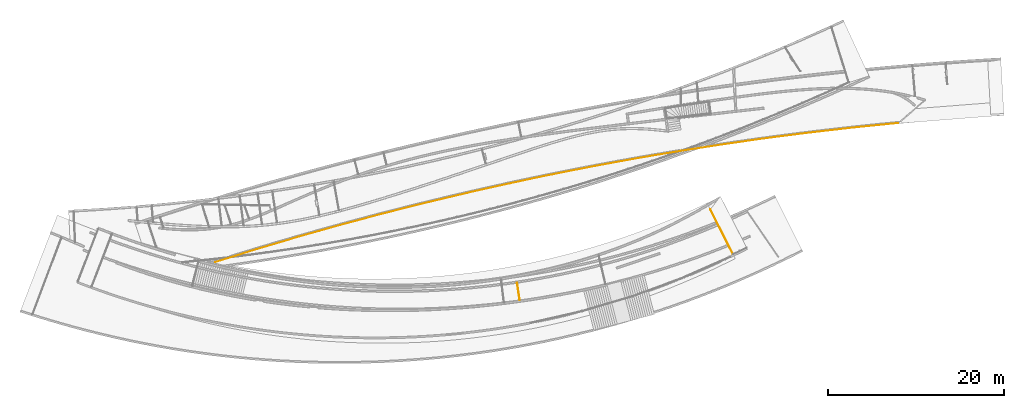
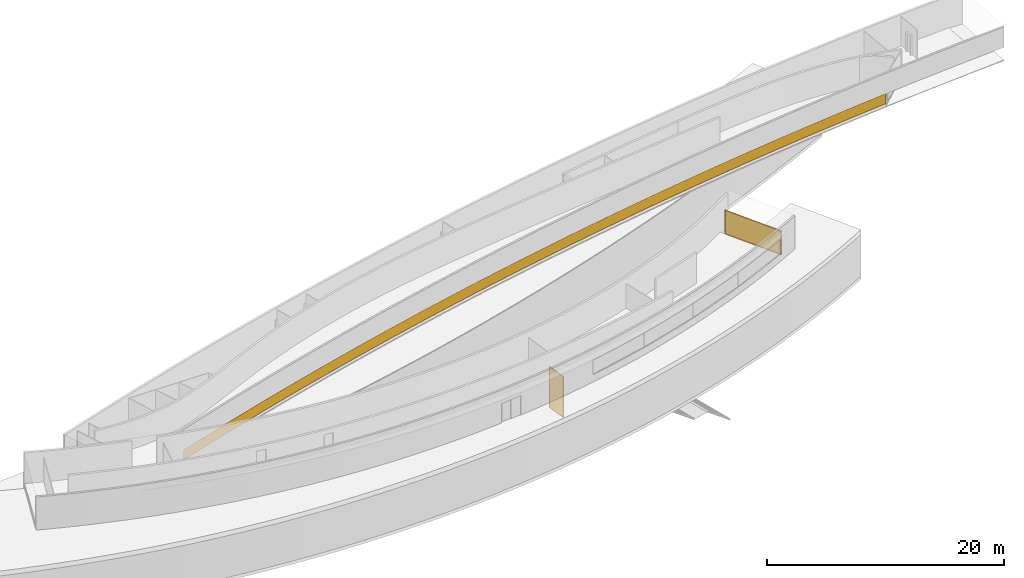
# Not in any storey, part 13 of 14: 2 curtain walls, 1 window.
"""IFC2X3 model written with IfcOpenShell, lengths in millimetres."""

from ifc_helpers import new_model, entity, si_unit, converted_unit, direction, frame, origin_with_axes, place, context, project, spatial, open_shell, faceted_brep, surface_model, source, transform, mapped, type_object, type_shapes, element, save


model = new_model("IFC2X3")

# Units and contexts
model_context = context("Model", 3, precision=1.0, world=origin_with_axes(), true_north=direction((0.0, 1.0)))
ifc_project = project(units=[si_unit("LENGTHUNIT", "METRE", prefix="MILLI"), converted_unit("PLANEANGLEUNIT", "DEGREE", entity("IfcRatioMeasure", 0.017453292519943), si_unit("PLANEANGLEUNIT", "RADIAN"), dimensions=[0, 0, 0, 0, 0, 0, 0])], contexts=[model_context])

# Site
site_placement = place(None, origin_with_axes())
site = spatial("IfcSite", under=ifc_project, at=site_placement, Name="Site", CompositionType="ELEMENT")

# Window
window_style = type_object("IfcWindowStyle", Name="Style", ConstructionType="NOTDEFINED", OperationType="SINGLE_PANEL", ParameterTakesPrecedence=False, Sizeable=False)
shared_shape_1 = source(origin_with_axes(), model_context, "Body", "SurfaceModel", [
    surface_model("IfcShellBasedSurfaceModel", [(-33027.0390625, 2413.43090820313, 9850.0), (-33027.0390625, 2413.43090820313, 10900.0), (-28144.265625, 3305.76293945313, 10900.0), (-28144.265625, 3305.76293945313, 9850.0), (-42746.8515625, 434.303741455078, 10900.0), (-37895.0, 1456.1923828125, 10900.0), (-37895.0, 1456.1923828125, 9850.0), (-42746.8515625, 434.303741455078, 9850.0), (-71447.9140625, -7036.01611328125, 9850.0), (-71447.9140625, -7036.01611328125, 10900.0), (-66719.515625, -5633.52099609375, 10900.0), (-66719.515625, -5633.52099609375, 9850.0), (-35461.01953125, 1934.81164550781, 10900.0), (-33027.0390625, 2413.43090820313, 10900.0), (-33027.0390625, 2413.43090820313, 9850.0), (-35461.01953125, 1934.81164550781, 9850.0), (-37895.0, 1456.1923828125, 9850.0), (-37895.0, 1456.1923828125, 10900.0), (-13420.224609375, 5591.27978515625, 9850.0), (-13420.224609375, 5591.27978515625, 10900.0), (-8491.3740234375, 6222.12109375, 10900.0), (-8491.3740234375, 6222.12109375, 9850.0), (-1082.35363769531, 7037.033203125, 10900.0), (1389.61145019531, 7286.76708984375, 10900.0), (1389.61145019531, 7286.76708984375, 9850.0), (-1082.35363769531, 7037.033203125, 9850.0), (-3554.31860351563, 6787.298828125, 9850.0), (-3554.31860351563, 6787.298828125, 10900.0), (-8491.3740234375, 6222.12109375, 10900.0), (-3554.31860351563, 6787.298828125, 10900.0), (-3554.31860351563, 6787.298828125, 9850.0), (-8491.3740234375, 6222.12109375, 9850.0), (-18339.5390625, 4894.8564453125, 9850.0), (-18339.5390625, 4894.8564453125, 10900.0), (-13420.224609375, 5591.27978515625, 10900.0), (-13420.224609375, 5591.27978515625, 9850.0), (-47581.296875, -651.944274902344, 10900.0), (-42746.8515625, 434.303741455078, 10900.0), (-42746.8515625, 434.303741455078, 9850.0), (-47581.296875, -651.944274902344, 9850.0), (-76151.3984375, -8500.4189453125, 9850.0), (-76151.3984375, -8500.4189453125, 10900.0), (-73799.65625, -7768.21728515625, 10900.0), (-71447.9140625, -7036.01611328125, 10900.0), (-71447.9140625, -7036.01611328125, 9850.0), (-73799.65625, -7768.21728515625, 9850.0), (-52397.05078125, -1802.2265625, 9850.0), (-52397.05078125, -1802.2265625, 10900.0), (-47581.296875, -651.944274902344, 10900.0), (-47581.296875, -651.944274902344, 9850.0), (-57192.84375, -3016.18408203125, 9850.0), (-57192.84375, -3016.18408203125, 10900.0), (-52397.05078125, -1802.2265625, 10900.0), (-52397.05078125, -1802.2265625, 9850.0), (-23247.994140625, 4132.966796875, 10900.0), (-18339.5390625, 4894.8564453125, 10900.0), (-18339.5390625, 4894.8564453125, 9850.0), (-23247.994140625, 4132.966796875, 9850.0), (-66719.515625, -5633.52099609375, 9850.0), (-66719.515625, -5633.52099609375, 10900.0), (-64343.46484375, -4963.47265625, 10900.0), (-61967.4140625, -4293.42431640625, 10900.0), (-61967.4140625, -4293.42431640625, 9850.0), (-64343.46484375, -4963.47265625, 9850.0), (-28144.265625, 3305.76293945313, 9850.0), (-28144.265625, 3305.76293945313, 10900.0), (-25696.130859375, 3719.36499023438, 10900.0), (-23247.994140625, 4132.966796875, 10900.0), (-23247.994140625, 4132.966796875, 9850.0), (-25696.130859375, 3719.36499023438, 9850.0), (-61967.4140625, -4293.42431640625, 10900.0), (-57192.84375, -3016.18408203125, 10900.0), (-57192.84375, -3016.18408203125, 9850.0), (-61967.4140625, -4293.42431640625, 9850.0)], [open_shell([[[0, 1, 2, 3]], [[4, 5, 6, 7]], [[8, 9, 10, 11]], [[12, 13, 14, 15, 16, 17]], [[18, 19, 20, 21]], [[22, 23, 24, 25, 26, 27]], [[28, 29, 30, 31]], [[32, 33, 34, 35]], [[36, 37, 38, 39]], [[40, 41, 42, 43, 44, 45]], [[46, 47, 48, 49]], [[50, 51, 52, 53]], [[54, 55, 56, 57]], [[58, 59, 60, 61, 62, 63]], [[64, 65, 66, 67, 68, 69]], [[70, 71, 72, 73]]])]),
])
type_shapes(window_style, [shared_shape_1])
shared_shape_2 = source(origin_with_axes(), None, "Body", "MappedRepresentation", [mapped(shared_shape_1, transform((0.0, 0.0, 0.0)))])
window_placement = place(site_placement, frame((38770.5055402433, 0.0, 0.0), z_axis=(0.0, 0.0, 1.0), x_axis=(1.0, 0.0, 0.0)))
element("IfcWindow", 1, at=window_placement, inside=site, type_object=window_style, ObjectType="Style", OverallHeight=1050.0, OverallWidth=77541.0110804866, context=model_context, shape_type="MappedRepresentation", body=[
    mapped(shared_shape_2, transform((0.0, 0.0, 0.0))),
])

# Curtain walls
shared_shape_3 = source(origin_with_axes(), model_context, "Body", "SurfaceModel", [
    surface_model("IfcShellBasedSurfaceModel", [(21419.4180329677, -7580.1728708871, 9850.00000000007), (21397.12890625, -7591.494140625, 9850.0), (21374.8379435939, -7602.81499240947, 9849.99999999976), (20081.2539119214, -5055.91601274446, 9849.99999999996), (18787.6698814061, -2509.01688196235, 9850.00000000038), (18809.958967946, -2497.69576843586, 9849.99999999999), (18832.2480537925, -2486.37452533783, 9850.0), (20125.833984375, -5033.27392578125, 9850.0), (21419.4180076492, -7580.17290106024, 9899.99999999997), (21374.8379482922, -7602.81505494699, 9899.99999999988), (21374.8379954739, -7602.81514784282, 9875.00000000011), (21374.8379849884, -7602.81512719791, 9849.99999999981), (21419.4180329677, -7580.1728708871, 9850.00000000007), (21419.4180329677, -7580.1728708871, 9850.00000000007), (18832.2483689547, -2486.37434813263, 9849.9999999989), (18832.2481253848, -2486.37448040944, 9900.00000000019), (18854.8905999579, -2530.95411428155, 9899.99999999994), (21419.4180076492, -7580.17290106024, 9899.99999999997), (18787.6699865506, -2509.01682570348, 9899.99999999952), (18787.6698814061, -2509.01688196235, 9850.00000000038), (20081.2539119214, -5055.91601274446, 9849.99999999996), (21374.8379435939, -7602.81499240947, 9849.99999999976), (21374.8382740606, -7602.81474665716, 9900.00000000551), (18810.3123977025, -2553.59624336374, 9900.00000000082), (18787.6698814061, -2509.01688196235, 9850.00000000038), (18787.6699865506, -2509.01682570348, 9899.99999999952), (18809.9589662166, -2497.69576503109, 9899.99999999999), (18832.2481253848, -2486.37448040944, 9900.00000000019), (18832.2480589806, -2486.37453555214, 9875.0), (18832.2480537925, -2486.37452533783, 9850.0), (18809.958967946, -2497.69576843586, 9849.99999999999), (18854.8905999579, -2530.95411428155, 9899.99999999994), (18832.2481253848, -2486.37448040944, 9900.00000000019), (18809.9589662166, -2497.69576503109, 9899.99999999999), (18787.6699865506, -2509.01682570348, 9899.99999999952), (18810.3123977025, -2553.59624336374, 9900.00000000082), (20081.25390625, -5055.916015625, 9900.0), (21352.197265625, -7558.23583984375, 9900.0), (21374.8379482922, -7602.81505494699, 9899.99999999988), (21397.12890625, -7591.494140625, 9900.0), (21419.4180076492, -7580.17290106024, 9899.99999999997), (21396.775390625, -7535.59326171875, 9900.0), (20125.833984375, -5033.27392578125, 9900.0)], [open_shell([[[0, 1, 2, 3, 4, 5, 6, 7]], [[8, 9, 10, 11, 12]], [[13, 14, 15, 16, 17]], [[18, 19, 20, 21, 22, 23]], [[24, 25, 26, 27, 28, 29, 30]], [[31, 32, 33, 34, 35, 36, 37, 38, 39, 40, 41, 42]]])]),
    surface_model("IfcShellBasedSurfaceModel", [(21396.7755431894, -7535.59318423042, 12299.9999999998), (21419.4180171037, -7580.17292222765, 12300.0000000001), (21397.12890625, -7591.494140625, 12300.0), (21374.8381787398, -7602.81479507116, 12300.0000000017), (21352.197265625, -7558.23583984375, 12300.0), (20081.254042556, -5055.91594639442, 12300.0000000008), (18810.31238741, -2553.59624859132, 12299.9999999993), (18787.6699781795, -2509.01682567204, 12300.0000000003), (18809.9589662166, -2497.69576503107, 12300.0), (18832.2481325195, -2486.37448106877, 12299.9999999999), (18854.8906079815, -2530.9541102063, 12300.0), (20125.833984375, -5033.27392578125, 12300.0), (18832.2481325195, -2486.37448106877, 12299.9999999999), (18832.2481537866, -2486.37447312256, 12349.9999999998), (21419.418030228, -7580.17289824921, 12350.0), (21419.4180171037, -7580.17292222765, 12300.0000000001), (21396.7755431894, -7535.59318423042, 12299.9999999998), (18854.8906079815, -2530.9541102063, 12300.0), (21374.8379277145, -7602.81497450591, 12350.0000000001), (21397.12890625, -7591.494140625, 12350.0), (21419.418030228, -7580.17289824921, 12350.0), (20125.833984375, -5033.27392578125, 12350.0), (18832.2481537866, -2486.37447312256, 12349.9999999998), (18809.958967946, -2497.69576843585, 12350.0), (18787.6698994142, -2509.01686853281, 12349.9999999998), (20081.2539226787, -5055.91600728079, 12350.0000000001), (21419.4180171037, -7580.17292222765, 12300.0000000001), (21419.418030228, -7580.17289824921, 12350.0), (21397.1280083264, -7591.49405131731, 12350.0000000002), (21374.8379535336, -7602.81506526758, 12350.0000000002), (21374.8379640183, -7602.81508591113, 12324.9999999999), (21374.8379325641, -7602.81502398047, 12300.0000000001), (21397.1280292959, -7591.49409260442, 12299.9999999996), (18787.6698994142, -2509.01686853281, 12349.9999999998), (18787.6699781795, -2509.01682567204, 12300.0000000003), (18810.31238741, -2553.59624859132, 12299.9999999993), (20081.254042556, -5055.91594639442, 12300.0000000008), (21374.8381787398, -7602.81479507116, 12299.9999999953), (21374.8379277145, -7602.81497450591, 12350.0000000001), (20081.2539226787, -5055.91600728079, 12350.0000000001), (18832.2481537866, -2486.37447312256, 12349.9999999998), (18832.2481325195, -2486.37448106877, 12299.9999999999), (18809.9589662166, -2497.69576503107, 12300.0), (18787.6699781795, -2509.01682567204, 12300.0000000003), (18787.6698994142, -2509.01686853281, 12349.9999999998), (18809.958967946, -2497.69576843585, 12350.0)], [open_shell([[[0, 1, 2, 3, 4, 5, 6, 7, 8, 9, 10, 11]], [[12, 13, 14, 15, 16, 17]], [[18, 19, 20, 21, 22, 23, 24, 25]], [[26, 27, 28, 29, 30, 31, 32]], [[33, 34, 35, 36, 37, 38, 39]], [[40, 41, 42, 43, 44, 45]]])]),
])
shared_shape_4 = source(origin_with_axes(), model_context, "Body", "Brep", [
    faceted_brep([(18787.669921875, -2509.01684570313, 9900.0), (18832.248046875, -2486.37451171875, 9900.0), (18854.890625, -2530.9541015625, 9900.0), (18810.3125, -2553.59619140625, 9900.0), (18854.890625, -2530.9541015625, 9900.0), (18832.248046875, -2486.37451171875, 9900.0), (18832.248046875, -2486.37451171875, 11100.0), (18832.248046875, -2486.37451171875, 12300.0), (18854.890625, -2530.9541015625, 12300.0), (18854.890625, -2530.9541015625, 11100.0), (18832.248046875, -2486.37451171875, 12300.0), (18787.669921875, -2509.01684570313, 12300.0), (18810.3125, -2553.59619140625, 12300.0), (18854.890625, -2530.9541015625, 12300.0), (18854.890625, -2530.9541015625, 12300.0), (18810.3125, -2553.59619140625, 12300.0), (18810.3125, -2553.59619140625, 11100.0), (18810.3125, -2553.59619140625, 9900.0), (18854.890625, -2530.9541015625, 9900.0), (18854.890625, -2530.9541015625, 11100.0), (18787.669921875, -2509.01684570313, 9900.0), (18810.3125, -2553.59619140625, 9900.0), (18810.3125, -2553.59619140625, 11100.0), (18810.3125, -2553.59619140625, 12300.0), (18787.669921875, -2509.01684570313, 12300.0), (18787.669921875, -2509.01684570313, 11100.0), (18787.669921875, -2509.01684570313, 12300.0), (18832.248046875, -2486.37451171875, 12300.0), (18832.248046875, -2486.37451171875, 11100.0), (18832.248046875, -2486.37451171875, 9900.0), (18787.669921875, -2509.01684570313, 9900.0), (18787.669921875, -2509.01684570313, 11100.0)], [[[0, 1, 2, 3]], [[4, 5, 6, 7, 8, 9]], [[10, 11, 12, 13]], [[14, 15, 16, 17, 18, 19]], [[20, 21, 22, 23, 24, 25]], [[26, 27, 28, 29, 30, 31]]]),
    faceted_brep([(21419.41796875, -7580.1728515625, 12300.0), (21374.837890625, -7602.81494140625, 12300.0), (21374.837890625, -7602.81494140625, 11100.0), (21374.837890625, -7602.81494140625, 9900.0), (21419.41796875, -7580.1728515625, 9900.0), (21419.41796875, -7580.1728515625, 11100.0), (21352.197265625, -7558.23583984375, 9900.0), (21374.837890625, -7602.81494140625, 9900.0), (21374.837890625, -7602.81494140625, 11100.0), (21374.837890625, -7602.81494140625, 12300.0), (21352.197265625, -7558.23583984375, 12300.0), (21352.197265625, -7558.23583984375, 11100.0), (21419.41796875, -7580.1728515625, 9900.0), (21396.775390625, -7535.59326171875, 9900.0), (21396.775390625, -7535.59326171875, 11100.0), (21396.775390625, -7535.59326171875, 12300.0), (21419.41796875, -7580.1728515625, 12300.0), (21419.41796875, -7580.1728515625, 11100.0), (21352.197265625, -7558.23583984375, 12300.0), (21396.775390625, -7535.59326171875, 12300.0), (21396.775390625, -7535.59326171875, 11100.0), (21396.775390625, -7535.59326171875, 9900.0), (21352.197265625, -7558.23583984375, 9900.0), (21352.197265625, -7558.23583984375, 11100.0), (21352.197265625, -7558.23583984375, 9900.0), (21396.775390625, -7535.59326171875, 9900.0), (21419.41796875, -7580.1728515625, 9900.0), (21374.837890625, -7602.81494140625, 9900.0), (21396.775390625, -7535.59326171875, 12300.0), (21352.197265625, -7558.23583984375, 12300.0), (21374.837890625, -7602.81494140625, 12300.0), (21419.41796875, -7580.1728515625, 12300.0)], [[[0, 1, 2, 3, 4, 5]], [[6, 7, 8, 9, 10, 11]], [[12, 13, 14, 15, 16, 17]], [[18, 19, 20, 21, 22, 23]], [[24, 25, 26, 27]], [[28, 29, 30, 31]]]),
])
shared_shape_5 = source(origin_with_axes(), model_context, "Body", "MappedRepresentation", [
    mapped(shared_shape_3, transform((0.0, 0.0, 0.0), x_axis=(1.0, 0.0, 0.0), y_axis=(0.0, 1.0, 0.0), z_axis=(0.0, 0.0, 1.0), scale=1.0)),
    mapped(shared_shape_4, transform((0.0, 0.0, 0.0), x_axis=(1.0, 0.0, 0.0), y_axis=(0.0, 1.0, 0.0), z_axis=(0.0, 0.0, 1.0), scale=1.0)),
])
shared_shape_6 = source(origin_with_axes(), model_context, "Body", "SurfaceModel", [
    surface_model("IfcShellBasedSurfaceModel", [(5613.16259765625, 2.17e-13, 0.0), (5613.16259765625, -2.04e-13, 2400.0), (0.0, -1.45e-13, 2400.0), (0.0, 2.76e-13, 0.0)], [open_shell([[[0, 1, 2, 3]]])]),
])
shared_shape_7 = source(origin_with_axes(), model_context, "Body", "MappedRepresentation", [
    mapped(shared_shape_5, transform((0.0, 0.0, 0.0), x_axis=(1.0, 0.0, 0.0), y_axis=(0.0, 1.0, 0.0), z_axis=(0.0, 0.0, 1.0), scale=1.0)),
    mapped(shared_shape_6, transform((21374.4863180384, -7546.91457624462, 9900.0), x_axis=(-0.45284364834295, 0.891589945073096, 0.0), y_axis=(-0.891589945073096, -0.45284364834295, 0.0), z_axis=(0.0, 0.0, 1.0), scale=1.0)),
])
curtain_wall_1_placement = place(site_placement, origin_with_axes())
element("IfcCurtainWall", 2, at=curtain_wall_1_placement, inside=site, context=model_context, shape_type="MappedRepresentation", body=[
    mapped(shared_shape_7, transform((0.0, 0.0, 0.0), x_axis=(1.0, 0.0, 0.0), y_axis=(0.0, 1.0, 0.0), z_axis=(0.0, 0.0, 1.0), scale=1.0)),
])
shared_shape_8 = source(origin_with_axes(), model_context, "Body", "SurfaceModel", [
    surface_model("IfcShellBasedSurfaceModel", [(1872.4130859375, 4.8e-14, 0.0), (1872.4130859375, -1.38e-13, 4180.0), (0.0, -3.3e-14, 4180.0), (0.0, 1.54e-13, 0.0)], [open_shell([[[0, 1, 2, 3]]])]),
])
shared_shape_9 = source(origin_with_axes(), model_context, "Body", "Brep", [
    faceted_brep([(-3085.00520629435, -10907.709972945, 4770.00146484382), (-3092.48703695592, -10858.2734339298, 4770.00146484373), (-3141.92409514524, -10865.7548862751, 4770.00146484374), (-3134.44234147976, -10915.1923765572, 4770.00146484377), (-2994.35252461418, -11840.8583962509, 4770.00146484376), (-2854.26270774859, -12766.5244159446, 4770.00146484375), (-2846.78101187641, -12815.9609384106, 4770.00146484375), (-2797.34375757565, -12808.479493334, 4770.00146484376), (-2804.82565247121, -12759.0419874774, 4770.00146484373), (-2944.91549178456, -11833.375971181, 4770.00146484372), (-3092.4870501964, -10858.2734359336, 4720.00146484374), (-3092.48703695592, -10858.2734339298, 4770.00146484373), (-3085.00520629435, -10907.709972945, 4770.00146484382), (-2944.91549178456, -11833.375971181, 4770.00146484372), (-2804.82565247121, -12759.0419874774, 4770.00146484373), (-2797.34375757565, -12808.479493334, 4770.00146484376), (-2797.34377081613, -12808.4794953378, 4720.00146484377), (-2944.91551164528, -11833.3759741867, 4720.00146484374), (-3141.92409514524, -10865.7548862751, 4770.00146484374), (-3141.92408882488, -10865.7548853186, 4720.00146484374), (-2994.35251513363, -11840.8583948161, 4720.00146484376), (-2846.78100555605, -12815.9609374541, 4720.00146484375), (-2846.78101187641, -12815.9609384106, 4770.00146484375), (-2854.26270774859, -12766.5244159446, 4770.00146484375), (-2994.35252461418, -11840.8583962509, 4770.00146484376), (-3134.44234147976, -10915.1923765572, 4770.00146484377), (-3141.92408882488, -10865.7548853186, 4720.00146484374), (-3141.92409514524, -10865.7548862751, 4770.00146484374), (-3092.48703695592, -10858.2734339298, 4770.00146484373), (-3092.4870501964, -10858.2734359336, 4720.00146484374), (-2797.34377081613, -12808.4794953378, 4720.00146484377), (-2797.34375757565, -12808.479493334, 4770.00146484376), (-2846.78101187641, -12815.9609384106, 4770.00146484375), (-2846.78100555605, -12815.9609374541, 4720.00146484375), (-2944.91551164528, -11833.3759741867, 4720.00146484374), (-2797.34377081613, -12808.4794953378, 4720.00146484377), (-2846.78100555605, -12815.9609374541, 4720.00146484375), (-2994.35251513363, -11840.8583948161, 4720.00146484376), (-3141.92408882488, -10865.7548853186, 4720.00146484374), (-3092.4870501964, -10858.2734359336, 4720.00146484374)], [[[0, 1, 2, 3, 4, 5, 6, 7, 8, 9]], [[10, 11, 12, 13, 14, 15, 16, 17]], [[18, 19, 20, 21, 22, 23, 24, 25]], [[26, 27, 28, 29]], [[30, 31, 32, 33]], [[34, 35, 36, 37, 38, 39]]]),
    faceted_brep([(-3134.4423828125, -10915.1923828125, 4770.00146484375), (-3141.92407226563, -10865.7548828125, 4770.00146484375), (-3092.48706054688, -10858.2734375, 4770.00146484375), (-3085.00512695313, -10907.7099609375, 4770.00146484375), (-3085.00512695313, -10907.7099609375, 8950.001953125), (-3134.4423828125, -10915.1923828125, 8950.001953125), (-3134.4423828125, -10915.1923828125, 6860.00146484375), (-3134.4423828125, -10915.1923828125, 4770.00146484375), (-3085.00512695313, -10907.7099609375, 4770.00146484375), (-3085.00512695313, -10907.7099609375, 6860.00146484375), (-3141.92407226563, -10865.7548828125, 8950.001953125), (-3092.48706054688, -10858.2734375, 8950.001953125), (-3092.48706054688, -10858.2734375, 6860.00146484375), (-3092.48706054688, -10858.2734375, 4770.00146484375), (-3141.92407226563, -10865.7548828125, 4770.00146484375), (-3141.92407226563, -10865.7548828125, 6860.00146484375), (-3141.92407226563, -10865.7548828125, 8950.001953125), (-3134.4423828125, -10915.1923828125, 8950.001953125), (-3085.00512695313, -10907.7099609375, 8950.001953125), (-3092.48706054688, -10858.2734375, 8950.001953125), (-3141.92407226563, -10865.7548828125, 4770.00146484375), (-3134.4423828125, -10915.1923828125, 4770.00146484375), (-3134.4423828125, -10915.1923828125, 6860.00146484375), (-3134.4423828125, -10915.1923828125, 8950.001953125), (-3141.92407226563, -10865.7548828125, 8950.001953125), (-3141.92407226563, -10865.7548828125, 6860.00146484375), (-3085.00512695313, -10907.7099609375, 4770.00146484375), (-3092.48706054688, -10858.2734375, 4770.00146484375), (-3092.48706054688, -10858.2734375, 6860.00146484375), (-3092.48706054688, -10858.2734375, 8950.001953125), (-3085.00512695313, -10907.7099609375, 8950.001953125), (-3085.00512695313, -10907.7099609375, 6860.00146484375)], [[[0, 1, 2, 3]], [[4, 5, 6, 7, 8, 9]], [[10, 11, 12, 13, 14, 15]], [[16, 17, 18, 19]], [[20, 21, 22, 23, 24, 25]], [[26, 27, 28, 29, 30, 31]]]),
    faceted_brep([(-3141.92408952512, -10865.7548854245, 9000.00195312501), (-3141.92409507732, -10865.7548862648, 8950.00195312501), (-3134.44234131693, -10915.1923765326, 8950.00195312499), (-2994.35252331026, -11840.8583960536, 8950.001953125), (-2854.26270530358, -12766.5244155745, 8950.001953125), (-2846.78101020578, -12815.9609381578, 8950.001953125), (-2846.78100465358, -12815.9609373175, 9000.001953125), (-2994.35251498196, -11840.8583947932, 9000.00195312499), (-2804.82565299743, -12759.0419875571, 8950.00195312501), (-2797.34375786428, -12808.4794933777, 8950.001953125), (-2846.78101020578, -12815.9609381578, 8950.001953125), (-2854.26270530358, -12766.5244155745, 8950.001953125), (-2994.35252331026, -11840.8583960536, 8950.001953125), (-3134.44234131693, -10915.1923765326, 8950.00195312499), (-3141.92409507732, -10865.7548862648, 8950.00195312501), (-3092.48703969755, -10858.2734343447, 8950.00195312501), (-3085.00521031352, -10907.7099735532, 8950.00195312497), (-2944.91549405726, -11833.3759715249, 8950.00195312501), (-2944.91550429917, -11833.3759730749, 9000.00195312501), (-3092.48704652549, -10858.273435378, 9000.00195312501), (-3141.92408952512, -10865.7548854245, 9000.00195312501), (-2994.35251498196, -11840.8583947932, 9000.00195312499), (-2846.78100465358, -12815.9609373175, 9000.001953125), (-2797.34376469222, -12808.479494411, 9000.00195312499), (-2797.34376469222, -12808.479494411, 9000.00195312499), (-2846.78100465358, -12815.9609373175, 9000.001953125), (-2846.78101020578, -12815.9609381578, 8950.001953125), (-2797.34375786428, -12808.4794933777, 8950.001953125), (-3092.48703969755, -10858.2734343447, 8950.00195312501), (-3092.48704652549, -10858.273435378, 9000.00195312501), (-2944.91550429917, -11833.3759730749, 9000.00195312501), (-2797.34376469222, -12808.479494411, 9000.00195312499), (-2797.34375786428, -12808.4794933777, 8950.001953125), (-2804.82565299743, -12759.0419875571, 8950.00195312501), (-2944.91549405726, -11833.3759715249, 8950.00195312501), (-3085.00521031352, -10907.7099735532, 8950.00195312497), (-3141.92409507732, -10865.7548862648, 8950.00195312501), (-3141.92408952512, -10865.7548854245, 9000.00195312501), (-3092.48704652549, -10858.273435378, 9000.00195312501), (-3092.48703969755, -10858.2734343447, 8950.00195312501)], [[[0, 1, 2, 3, 4, 5, 6, 7]], [[8, 9, 10, 11, 12, 13, 14, 15, 16, 17]], [[18, 19, 20, 21, 22, 23]], [[24, 25, 26, 27]], [[28, 29, 30, 31, 32, 33, 34, 35]], [[36, 37, 38, 39]]]),
])
shared_shape_10 = source(origin_with_axes(), model_context, "Body", "SurfaceModel", [
    surface_model("IfcShellBasedSurfaceModel", [(-2822.06223004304, -12812.2198971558, 8950.001953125), (-2797.34375661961, -12808.4794484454, 8950.001953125), (-2801.08471679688, -12783.7607421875, 8950.001953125), (-2804.82568359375, -12759.0419921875, 8950.001953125), (-2854.2626953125, -12766.5244140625, 8950.001953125), (-2846.781011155, -12815.9609025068, 8950.001953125), (-2854.2626953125, -12766.5244140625, 8950.001953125), (-2804.82568359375, -12759.0419921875, 8950.001953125), (-2804.82568359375, -12759.0419921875, 6860.00146484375), (-2804.82568359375, -12759.0419921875, 4770.00146484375), (-2854.2626953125, -12766.5244140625, 4770.00146484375), (-2854.2626953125, -12766.5244140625, 6860.00146484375), (-2854.2626953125, -12766.5244140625, 4770.00146484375), (-2846.78100983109, -12815.9609112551, 4770.00146484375), (-2846.78101280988, -12815.9608915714, 6860.00146484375), (-2846.781011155, -12815.9609025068, 8950.001953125), (-2854.2626953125, -12766.5244140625, 8950.001953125), (-2854.2626953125, -12766.5244140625, 6860.00146484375), (-2854.2626953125, -12766.5244140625, 4770.00146484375), (-2804.82568359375, -12759.0419921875, 4770.00146484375), (-2801.08471679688, -12783.7607421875, 4770.00146484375), (-2797.34375529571, -12808.4794571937, 4770.00146484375), (-2822.06225585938, -12812.2197265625, 4770.00146484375), (-2846.78100983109, -12815.9609112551, 4770.00146484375), (-2797.34375893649, -12808.4794331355, 6860.00146484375), (-2797.34375529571, -12808.4794571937, 4770.00146484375), (-2801.08471679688, -12783.7607421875, 4770.00146484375), (-2804.82568359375, -12759.0419921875, 4770.00146484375), (-2804.82568359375, -12759.0419921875, 6860.00146484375), (-2804.82568359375, -12759.0419921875, 8950.001953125), (-2801.08471679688, -12783.7607421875, 8950.001953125), (-2797.34375661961, -12808.4794484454, 8950.001953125), (-2822.06223004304, -12812.2198971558, 8950.001953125), (-2846.781011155, -12815.9609025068, 8950.001953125), (-2846.78101280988, -12815.9608915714, 6860.00146484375), (-2846.78100983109, -12815.9609112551, 4770.00146484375), (-2797.34375529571, -12808.4794571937, 4770.00146484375), (-2797.34375893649, -12808.4794331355, 6860.00146484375), (-2797.34375661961, -12808.4794484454, 8950.001953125)], [open_shell([[[0, 1, 2, 3, 4, 5]], [[6, 7, 8, 9, 10, 11]], [[12, 13, 14, 15, 16, 17]], [[18, 19, 20, 21, 22, 23]], [[24, 25, 26, 27, 28, 29, 30, 31]], [[32, 33, 34, 35, 36, 37, 38]]])]),
])
shared_shape_11 = source(origin_with_axes(), model_context, "Body", "MappedRepresentation", [
    mapped(shared_shape_9, transform((0.0, 0.0, 0.0), x_axis=(1.0, 0.0, 0.0), y_axis=(0.0, 1.0, 0.0), z_axis=(0.0, 0.0, 1.0), scale=1.0)),
    mapped(shared_shape_10, transform((0.0, 0.0, 0.0), x_axis=(1.0, 0.0, 0.0), y_axis=(0.0, 1.0, 0.0), z_axis=(0.0, 0.0, 1.0), scale=1.0)),
])
shared_shape_12 = source(origin_with_axes(), model_context, "Body", "MappedRepresentation", [
    mapped(shared_shape_8, transform((-2829.5441466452, -12762.7830505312, 4770.0015078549), x_axis=(-0.149635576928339, 0.988741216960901, 0.0), y_axis=(-0.988741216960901, -0.149635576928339, 0.0), z_axis=(0.0, 0.0, 1.0), scale=1.0)),
    mapped(shared_shape_11, transform((0.0, 0.0, 0.0), x_axis=(1.0, 0.0, 0.0), y_axis=(0.0, 1.0, 0.0), z_axis=(0.0, 0.0, 1.0), scale=1.0)),
])
curtain_wall_2_placement = place(site_placement, origin_with_axes())
element("IfcCurtainWall", 3, at=curtain_wall_2_placement, inside=site, context=model_context, shape_type="MappedRepresentation", body=[
    mapped(shared_shape_12, transform((0.0, 0.0, 0.0), x_axis=(1.0, 0.0, 0.0), y_axis=(0.0, 1.0, 0.0), z_axis=(0.0, 0.0, 1.0), scale=1.0)),
])

save(model, "model.ifc")
